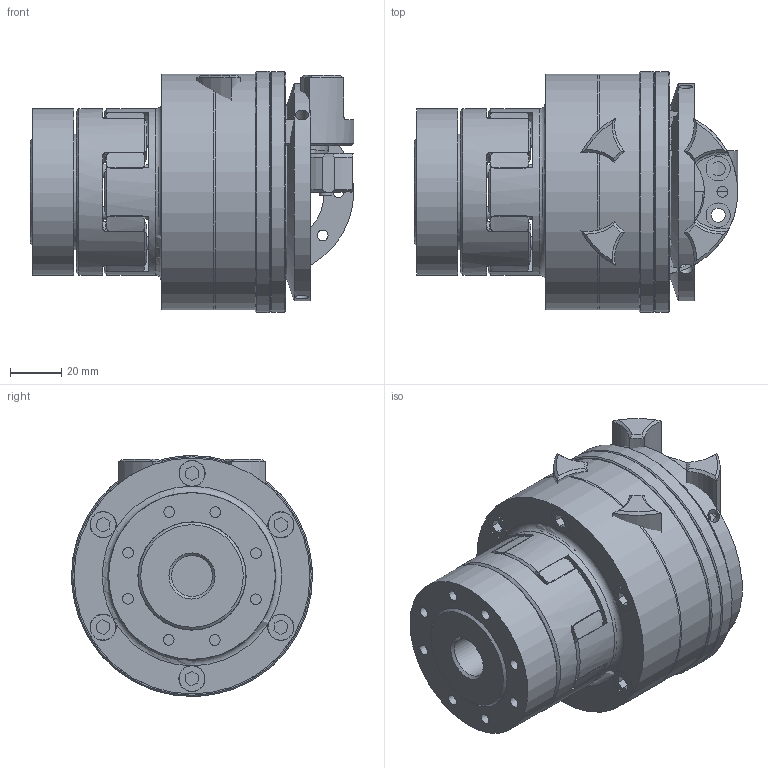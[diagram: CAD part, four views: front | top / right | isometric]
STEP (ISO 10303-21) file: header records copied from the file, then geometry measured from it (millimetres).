
FILE_DESCRIPTION( ( 'Unknown' ), '1' );
FILE_NAME( 'C:/Dokumente und Einstellungen/Sven/Desktop/hp kbk/E-AP/KBK EAP-28-110.stp', 'Unknown', ( 'Unknown' ), ( 'Unknown' ), 'XStep 1.0', 'Unknown', ' ' );
FILE_SCHEMA( ( 'automotive_design' ) );
Length unit declared in the file: millimetre
Products named in the file (17): Assem1; Assem2; Assem3; Assem4; ball_bearing_-_6008_0_01; ball_bearing_-_6008_0_02; ball_bearing_-_6008_0_03; Zylinderschraube DIN 912_2; KBK L-P-80 Grundkörper; Stellring 80; Druckring 80; Flansch 80; a_40; Elastomerflansch 28; Zahnkranz EK28_Standard; KBE 3 C - 28_Nabe; KBE3-28_Druckring
Bounding box: 126.15 x 94 x 94 mm (x, y, z)
Volume: 896627.2 mm3; surface area: 312663.3 mm2
Topology: 35 solids, 35 shells, 863 faces, 2028 edges, 1319 vertices
Faces by surface type: cylinder 336, plane 282, cone 198, torus 47
Full cylindrical faces by diameter (mm): 2.5 x4, 3.242 x6, 4.2 x24, 4.917 x12, 5 x24, 5.2 x6, 5.5 x16, 6 x8, 6.2 x12, 9.5 x16, 10 x8, 10.2 x12, 16 x2, 30 x6, 37.5 x2, 39 x2, 40 x7, 45 x2, 49.2 x6, 59.1 x6, 61 x2, 62 x4, 65 x6, 68 x7, 70 x2, 85 x2, 87 x2, 90 x4, 92 x2, 94 x2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
Entity records: 11163 total; most frequent: CARTESIAN_POINT 2476, DIRECTION 1885, ORIENTED_EDGE 1420, AXIS2_PLACEMENT_3D 880, EDGE_CURVE 710, EDGE_LOOP 643, VERTEX_POINT 531, FACE_OUTER_BOUND 492
